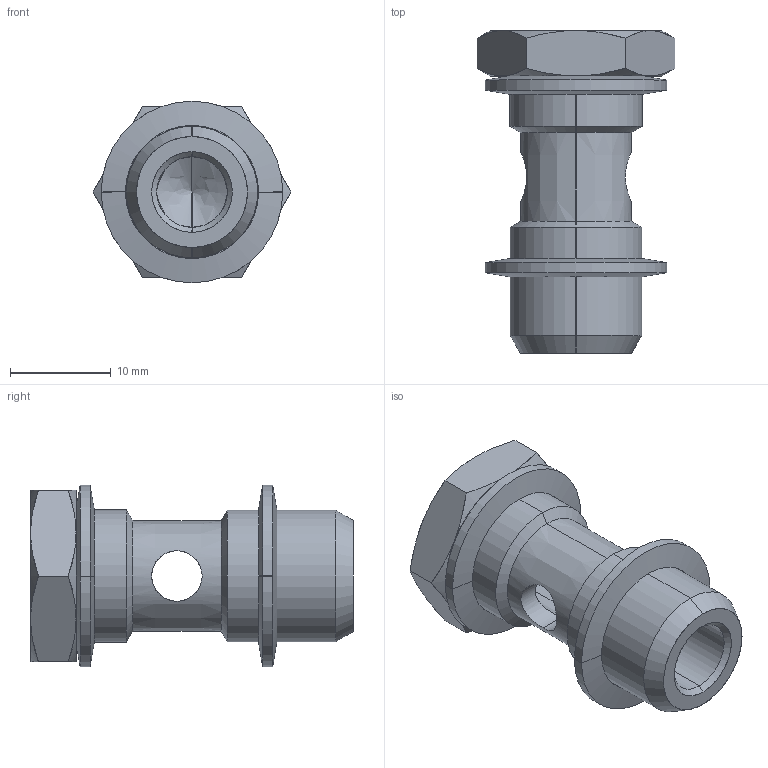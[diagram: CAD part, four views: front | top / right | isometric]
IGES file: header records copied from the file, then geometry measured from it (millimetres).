
Start section: SolidWorks IGES file using analytic representation for surfaces
Global section: file name: K:\Disegni Esecutivi\Serie 50000\ASSIEMI\51410\ASSIEMI_PIENI_51410\5141000014.IGS; native system: SolidWorks 2007; preprocessor: SolidWorks 2007; author: cad02; date: 071011.164200; units: millimetre
Bounding box: 19.63 x 32 x 18 mm (x, y, z)
Surface area: 3150 mm2 (no closed solid volume)
Topology: 0 solids, 0 shells, 101 faces, 1188 edges, 1186 vertices
Faces by surface type: revolution 68, bspline 33
